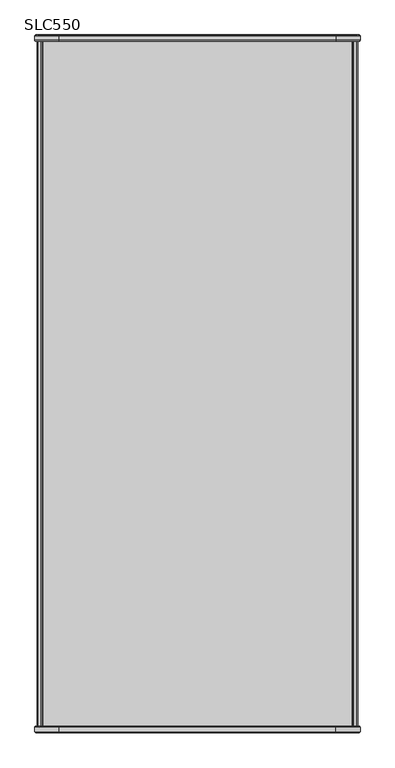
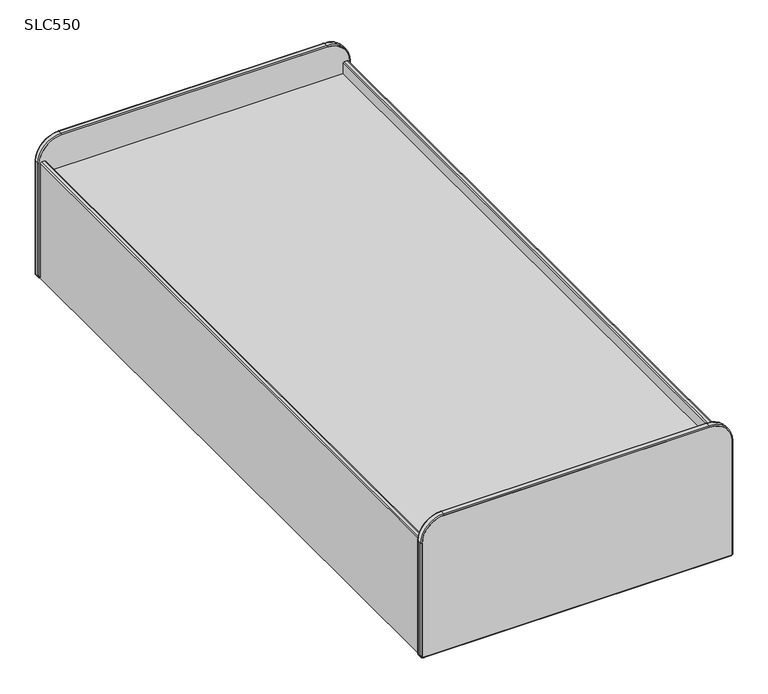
"""IFC4 building model written with IfcOpenShell, lengths in millimetres: furniture geometry, Stance_HC-Lotus-Platform_Bed-Rounded_Corners : SLC550."""

from ifc_helpers import new_model, si_unit, point, frame, frame_2d, origin, place, context, project, spatial, polyline, circle_curve, ellipse_curve, trimmed, segment, composite_curve, outline, extrude, source, transform, mapped, element, save
from ifc_brep_helpers import plane_surface, cylinder_surface, revolved_surface, advanced_brep


def slc550_b5a2f631(model_context):
    return source(origin(), model_context, "Body", "SolidModel", [
        extrude(outline(polyline([(946.9437258, -2063.75), (24.6062492, -2063.75), (24.6062492, -19.05), (946.9437258, -19.05), (946.9437258, -2063.75)])), frame((0.0, 0.0, 323.85), z_axis=(0.0, 0.0, 1.0), x_axis=(1.0, 0.0, 0.0)), (0.0, 0.0, 1.0), 19.05),
        extrude(outline(composite_curve([segment(polyline([(0.0, 22.2249992), (377.825, 22.2249992)]), True, "CONTINUOUS"), segment(trimmed(circle_curve(frame_2d((377.825, 19.0499992)), 3.175), [point((377.825, 22.2249992))], [point((381.0, 19.0499992))], False, "CARTESIAN"), True, "CONTINUOUS"), segment(polyline([(381.0, 19.0499992), (381.0, 9.5250002)]), True, "CONTINUOUS"), segment(trimmed(circle_curve(frame_2d((377.825, 9.5250002)), 3.175), [point((381.0, 9.5250002))], [point((377.825, 6.3500002))], False, "CARTESIAN"), True, "CONTINUOUS"), segment(polyline([(377.825, 6.3500002), (0.0, 6.3500002), (0.0, 22.2249992)]), True, "CONTINUOUS")], self_intersect=False)), frame((0.0, -2063.75, 0.0), z_axis=(0.0, 1.0, 0.0), x_axis=(0.0, 0.0, 1.0)), (0.0, 0.0, 1.0), 2044.7),
        extrude(outline(composite_curve([segment(polyline([(0.0, 949.3250008), (0.0, 965.1999998), (377.825, 965.1999998)]), True, "CONTINUOUS"), segment(trimmed(circle_curve(frame_2d((377.825, 962.0249998)), 3.175), [point((377.825, 965.1999998))], [point((381.0, 962.0249998))], False, "CARTESIAN"), True, "CONTINUOUS"), segment(polyline([(381.0, 962.0249998), (381.0, 952.5000008)]), True, "CONTINUOUS"), segment(trimmed(circle_curve(frame_2d((377.825, 952.5000008)), 3.175), [point((381.0, 952.5000008))], [point((377.825, 949.3250008))], False, "CARTESIAN"), True, "CONTINUOUS"), segment(polyline([(377.825, 949.3250008), (0.0, 949.3250008)]), True, "CONTINUOUS")], self_intersect=False)), frame((0.0, -2063.75, 0.0), z_axis=(0.0, 1.0, 0.0), x_axis=(0.0, 0.0, 1.0)), (0.0, 0.0, 1.0), 2044.7),
        extrude(outline(composite_curve([segment(trimmed(circle_curve(frame_2d((6.35, 965.2)), 3.1749999), [point((3.1750001, 965.2))], [point((6.35, 968.3749999))], False, "CARTESIAN"), True, "CONTINUOUS"), segment(polyline([(6.35, 968.3749999), (377.8249879, 968.3749999)]), True, "CONTINUOUS"), segment(trimmed(circle_curve(frame_2d((377.8249879, 898.525)), 69.8499999), [point((377.8249879, 968.3749999))], [point((447.6749878, 898.525))], False, "CARTESIAN"), True, "CONTINUOUS"), segment(polyline([(447.6749878, 898.525), (447.6749878, 73.0249985)]), True, "CONTINUOUS"), segment(trimmed(circle_curve(frame_2d((377.8249894, 73.0249985)), 69.8499984), [point((447.6749878, 73.0249985))], [point((377.8249894, 3.1750001))], False, "CARTESIAN"), True, "CONTINUOUS"), segment(polyline([(377.8249894, 3.1750001), (6.35, 3.1750001)]), True, "CONTINUOUS"), segment(trimmed(circle_curve(frame_2d((6.35, 6.35)), 3.1749999), [point((6.35, 3.1750001))], [point((3.1750001, 6.35))], False, "CARTESIAN"), True, "CONTINUOUS"), segment(polyline([(3.1750001, 6.35), (3.1750001, 965.2)]), True, "CONTINUOUS")], self_intersect=False)), frame((0.0, -2082.8, 0.0), z_axis=(0.0, 1.0, 0.0), x_axis=(0.0, 0.0, 1.0)), (0.0, 0.0, 1.0), 19.05),
        extrude(outline(composite_curve([segment(polyline([(3.1750001, 6.35), (3.1750001, 965.2)]), True, "CONTINUOUS"), segment(trimmed(circle_curve(frame_2d((6.35, 965.2)), 3.1749999), [point((3.1750001, 965.2))], [point((6.35, 968.3749999))], False, "CARTESIAN"), True, "CONTINUOUS"), segment(polyline([(6.35, 968.3749999), (377.8249879, 968.3749999)]), True, "CONTINUOUS"), segment(trimmed(circle_curve(frame_2d((377.8249879, 898.525)), 69.8499999), [point((377.8249879, 968.3749999))], [point((447.6749878, 898.525))], False, "CARTESIAN"), True, "CONTINUOUS"), segment(polyline([(447.6749878, 898.525), (447.6749878, 73.025)]), True, "CONTINUOUS"), segment(trimmed(circle_curve(frame_2d((377.8249879, 73.025)), 69.8499999), [point((447.6749878, 73.025))], [point((377.8249879, 3.1750001))], False, "CARTESIAN"), True, "CONTINUOUS"), segment(polyline([(377.8249879, 3.1750001), (6.35, 3.1750001)]), True, "CONTINUOUS"), segment(trimmed(circle_curve(frame_2d((6.35, 6.35)), 3.1749999), [point((6.35, 3.1750001))], [point((3.1750001, 6.35))], False, "CARTESIAN"), True, "CONTINUOUS")], self_intersect=False)), frame((0.0, -19.05, 0.0), z_axis=(0.0, 1.0, 0.0), x_axis=(0.0, 0.0, 1.0)), (0.0, 0.0, 1.0), 19.05),
        advanced_brep(
        [(971.55, -2066.9250001, 6.35), (965.2, -2066.9250001, 0.0), (965.2, -2063.75, 3.1750001), (968.3749999, -2063.75, 6.35), (965.2, -2082.8, 3.1750001), (968.3749999, -2082.8, 6.35), (965.2, -2079.6249999, 0.0), (971.55, -2079.6249999, 6.35), (968.3749999, -2063.75, 377.8249879), (971.55, -2066.9250001, 377.8249879), (968.3749999, -2082.8, 377.8249879), (971.55, -2079.6249999, 377.8249879), (0.0, -2066.9250001, 377.8249894), (3.1750001, -2063.75, 377.8249894), (3.1750001, -2063.75, 6.35), (0.0, -2066.9250001, 6.35), (3.1750001, -2082.8, 377.8249894), (3.1750001, -2082.8, 6.35), (0.0, -2079.6249999, 377.8249894), (0.0, -2079.6249999, 6.35), (6.35, -2066.9250001, 0.0), (6.35, -2063.75, 3.1750001), (6.35, -2082.8, 3.1750001), (6.35, -2079.6249999, 0.0), (898.525, -2079.6249999, 450.8499879), (898.525, -2066.9250001, 450.8499879), (898.525, -2082.8, 447.6749878), (898.525, -2063.75, 447.6749878), (73.0249985, -2066.9250001, 450.8499879), (73.0249985, -2079.6249999, 450.8499879), (73.0249985, -2082.8, 447.6749878), (73.0249985, -2063.75, 447.6749878)],
        [
            (0, 1, circle_curve(frame((965.2, -2066.9250001, 6.35), z_axis=(0.0, 1.0, 0.0), x_axis=(0.0, 0.0, -1.0)), 6.35)),
            (1, 2, circle_curve(frame((965.2, -2066.9250001, 3.1750001), z_axis=(1.0, 0.0, 0.0), x_axis=(0.0, 0.0, -1.0)), 3.1750001)),
            (2, 3, circle_curve(frame((965.2, -2063.75, 6.35), z_axis=(0.0, -1.0, 0.0), x_axis=(0.0, 0.0, -1.0)), 3.1749999)),
            (3, 0, circle_curve(frame((968.3749999, -2066.9250001, 6.35), z_axis=(0.0, 0.0, -1.0), x_axis=(1.0, 0.0, 0.0)), 3.1750001)),
            (2, 4),
            (4, 5, circle_curve(frame((965.2, -2082.8, 6.35), z_axis=(0.0, -1.0, 0.0), x_axis=(0.0, 0.0, -1.0)), 3.1749999)),
            (5, 3),
            (4, 6, circle_curve(frame((965.2, -2079.6249999, 3.1750001), z_axis=(1.0, 0.0, 0.0), x_axis=(0.0, 0.0, -1.0)), 3.1750001)),
            (6, 7, circle_curve(frame((965.2, -2079.6249999, 6.35), z_axis=(0.0, -1.0, 0.0), x_axis=(0.0, 0.0, -1.0)), 6.35)),
            (7, 5, circle_curve(frame((968.3749999, -2079.6249999, 6.35), z_axis=(0.0, 0.0, -1.0), x_axis=(1.0, 0.0, 0.0)), 3.1750001)),
            (6, 1),
            (0, 7),
            (3, 8),
            (8, 9, circle_curve(frame((968.3749999, -2066.9250001, 377.8249879), z_axis=(0.0, 0.0, -1.0), x_axis=(1.0, 0.0, 0.0)), 3.1750001)),
            (9, 0),
            (5, 10),
            (10, 8),
            (7, 11),
            (11, 10, circle_curve(frame((968.3749999, -2079.6249999, 377.8249879), z_axis=(0.0, 0.0, -1.0), x_axis=(1.0, 0.0, 0.0)), 3.1750001)),
            (9, 11),
            (12, 13, circle_curve(frame((3.1750001, -2066.9250001, 377.8249894), z_axis=(0.0, 0.0, -1.0), x_axis=(-1.0, 0.0, 0.0)), 3.1750001)),
            (13, 14),
            (14, 15, circle_curve(frame((3.1750001, -2066.9250001, 6.35), z_axis=(0.0, 0.0, 1.0), x_axis=(-1.0, 0.0, 0.0)), 3.1750001)),
            (15, 12),
            (13, 16),
            (16, 17),
            (17, 14),
            (16, 18, circle_curve(frame((3.1750001, -2079.6249999, 377.8249894), z_axis=(0.0, 0.0, -1.0), x_axis=(-1.0, 0.0, 0.0)), 3.1750001)),
            (18, 19),
            (19, 17, circle_curve(frame((3.1750001, -2079.6249999, 6.35), z_axis=(0.0, 0.0, 1.0), x_axis=(-1.0, 0.0, 0.0)), 3.1750001)),
            (18, 12),
            (15, 19),
            (20, 15, circle_curve(frame((6.35, -2066.9250001, 6.35), z_axis=(0.0, 1.0, 0.0), x_axis=(-1.0, 0.0, 0.0)), 6.35)),
            (14, 21, circle_curve(frame((6.35, -2063.75, 6.35), z_axis=(0.0, -1.0, 0.0), x_axis=(-1.0, 0.0, 0.0)), 3.1749999)),
            (21, 20, circle_curve(frame((6.35, -2066.9250001, 3.1750001), z_axis=(-1.0, 0.0, 0.0), x_axis=(0.0, 0.0, -1.0)), 3.1750001)),
            (17, 22, circle_curve(frame((6.35, -2082.8, 6.35), z_axis=(0.0, -1.0, 0.0), x_axis=(-1.0, 0.0, 0.0)), 3.1749999)),
            (22, 21),
            (19, 23, circle_curve(frame((6.35, -2079.6249999, 6.35), z_axis=(0.0, -1.0, 0.0), x_axis=(-1.0, 0.0, 0.0)), 6.35)),
            (23, 22, circle_curve(frame((6.35, -2079.6249999, 3.1750001), z_axis=(-1.0, 0.0, 0.0), x_axis=(0.0, 0.0, -1.0)), 3.1750001)),
            (20, 23),
            (21, 2),
            (1, 20),
            (22, 4),
            (23, 6),
            (24, 11, circle_curve(frame((898.525, -2079.6249999, 377.8249879), z_axis=(0.0, 1.0, 0.0), x_axis=(1.0, 0.0, 0.0)), 73.025)),
            (9, 25, circle_curve(frame((898.525, -2066.9250001, 377.8249879), z_axis=(0.0, -1.0, 0.0), x_axis=(1.0, 0.0, 0.0)), 73.025)),
            (25, 24),
            (26, 10, circle_curve(frame((898.525, -2082.8, 377.8249879), z_axis=(0.0, 1.0, 0.0), x_axis=(1.0, 0.0, 0.0)), 69.8499999)),
            (24, 26, circle_curve(frame((898.525, -2079.6249999, 447.6749878), z_axis=(1.0, 0.0, 0.0), x_axis=(0.0, 0.0, 1.0)), 3.1750001)),
            (27, 8, circle_curve(frame((898.525, -2063.75, 377.8249879), z_axis=(0.0, 1.0, 0.0), x_axis=(1.0, 0.0, 0.0)), 69.8499999)),
            (26, 27),
            (27, 25, circle_curve(frame((898.525, -2066.9250001, 447.6749878), z_axis=(1.0, 0.0, 0.0), x_axis=(0.0, 0.0, 1.0)), 3.1750001)),
            (25, 28),
            (28, 29),
            (29, 24),
            (29, 30, circle_curve(frame((73.0249985, -2079.6249999, 447.6749878), z_axis=(1.0, 0.0, 0.0), x_axis=(0.0, 0.0, 1.0)), 3.1750001)),
            (30, 26),
            (30, 31),
            (31, 27),
            (31, 28, circle_curve(frame((73.0249985, -2066.9250001, 447.6749878), z_axis=(1.0, 0.0, 0.0), x_axis=(0.0, 0.0, 1.0)), 3.1750001)),
            (18, 29, circle_curve(frame((73.0249985, -2079.6249999, 377.8249894), z_axis=(0.0, 1.0, 0.0), x_axis=(0.0, 0.0, 1.0)), 73.0249985)),
            (28, 12, circle_curve(frame((73.0249985, -2066.9250001, 377.8249894), z_axis=(0.0, -1.0, 0.0), x_axis=(0.0, 0.0, 1.0)), 73.0249985)),
            (16, 30, circle_curve(frame((73.0249985, -2082.8, 377.8249894), z_axis=(0.0, 1.0, 0.0), x_axis=(0.0, 0.0, 1.0)), 69.8499984)),
            (13, 31, circle_curve(frame((73.0249985, -2063.75, 377.8249894), z_axis=(0.0, 1.0, 0.0), x_axis=(0.0, 0.0, 1.0)), 69.8499984)),
        ],
        [
            revolved_surface(trimmed(ellipse_curve(frame((965.2, -2066.9250001, 3.1750001), z_axis=(-1.0, 0.0, 0.0), x_axis=(0.0, 0.0, -1.0)), 3.1750001, 3.1750001), [point((965.2, -2063.75, 3.1750001))], [point((965.2, -2066.9250001, 0.0))], True, "CARTESIAN"), (965.2, -2082.8, 6.35), (0.0, -1.0, 0.0)),
            revolved_surface(polyline([(965.2, -2082.8, 3.1750000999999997), (965.2, -2063.75, 3.1750000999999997)]), (965.2, -2082.8, 6.35), (0.0, -1.0, 0.0)),
            revolved_surface(trimmed(ellipse_curve(frame((965.2, -2079.6249999, 3.1750001), z_axis=(-1.0, 0.0, 0.0), x_axis=(0.0, 0.0, -1.0)), 3.1750001, 3.1750001), [point((965.2, -2079.6249999, 0.0))], [point((965.2, -2082.8, 3.1750001))], True, "CARTESIAN"), (965.2, -2082.8, 6.35), (0.0, -1.0, 0.0)),
            cylinder_surface(frame((965.2, -2082.8, 6.35), z_axis=(0.0, -1.0, 0.0), x_axis=(0.0, 0.0, -1.0)), 6.35),
            cylinder_surface(frame((968.3749999, -2066.9250001, 6.35), z_axis=(0.0, 0.0, -1.0), x_axis=(1.0, 0.0, 0.0)), 3.1750001),
            plane_surface(frame((968.3749999, -2082.8, 6.35), z_axis=(-1.0, 0.0, 0.0), x_axis=(0.0, 0.0, 1.0))),
            cylinder_surface(frame((968.3749999, -2079.6249999, 6.35), z_axis=(0.0, 0.0, -1.0), x_axis=(1.0, 0.0, 0.0)), 3.1750001),
            plane_surface(frame((971.55, -2066.9250001, 6.35), z_axis=(1.0, 0.0, 0.0), x_axis=(0.0, 0.0, 1.0))),
            cylinder_surface(frame((3.1750001, -2066.9250001, 377.8249894), z_axis=(0.0, 0.0, 1.0), x_axis=(-1.0, 0.0, 0.0)), 3.1750001),
            plane_surface(frame((3.1750001, -2082.8, 377.8249894), z_axis=(1.0, 0.0, 0.0), x_axis=(0.0, 0.0, -1.0))),
            cylinder_surface(frame((3.1750001, -2079.6249999, 377.8249894), z_axis=(0.0, 0.0, 1.0), x_axis=(-1.0, 0.0, 0.0)), 3.1750001),
            plane_surface(frame((0.0, -2066.9250001, 377.8249894), z_axis=(-1.0, 0.0, 0.0), x_axis=(0.0, 0.0, -1.0))),
            revolved_surface(trimmed(ellipse_curve(frame((3.1750001, -2066.9250001, 6.35), z_axis=(0.0, 0.0, 1.0), x_axis=(-1.0, 0.0, 0.0)), 3.1750001, 3.1750001), [point((3.1750001, -2063.75, 6.35))], [point((0.0, -2066.9250001, 6.35))], True, "CARTESIAN"), (6.35, -2082.8, 6.35), (0.0, -1.0, 0.0)),
            revolved_surface(polyline([(3.1750000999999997, -2082.8, 6.35), (3.1750000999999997, -2063.75, 6.35)]), (6.35, -2082.8, 6.35), (0.0, -1.0, 0.0)),
            revolved_surface(trimmed(ellipse_curve(frame((3.1750001, -2079.6249999, 6.35), z_axis=(0.0, 0.0, 1.0), x_axis=(-1.0, 0.0, 0.0)), 3.1750001, 3.1750001), [point((0.0, -2079.6249999, 6.35))], [point((3.1750001, -2082.8, 6.35))], True, "CARTESIAN"), (6.35, -2082.8, 6.35), (0.0, -1.0, 0.0)),
            cylinder_surface(frame((6.35, -2082.8, 6.35), z_axis=(0.0, -1.0, 0.0), x_axis=(-1.0, 0.0, 0.0)), 6.35),
            cylinder_surface(frame((6.35, -2066.9250001, 3.1750001), z_axis=(-1.0, 0.0, 0.0), x_axis=(0.0, 0.0, -1.0)), 3.1750001),
            plane_surface(frame((6.35, -2082.8, 3.1750001), z_axis=(0.0, 0.0, 1.0), x_axis=(1.0, 0.0, 0.0))),
            cylinder_surface(frame((6.35, -2079.6249999, 3.1750001), z_axis=(-1.0, 0.0, 0.0), x_axis=(0.0, 0.0, -1.0)), 3.1750001),
            plane_surface(frame((6.35, -2066.9250001, 0.0), z_axis=(0.0, 0.0, -1.0), x_axis=(1.0, 0.0, 0.0))),
            cylinder_surface(frame((898.525, -2082.8, 377.8249879), z_axis=(0.0, -1.0, 0.0), x_axis=(1.0, 0.0, 0.0)), 73.025),
            revolved_surface(trimmed(ellipse_curve(frame((968.3749999, -2079.6249999, 377.8249879), z_axis=(0.0, 0.0, -1.0), x_axis=(1.0, 0.0, 0.0)), 3.1750001, 3.1750001), [point((971.55, -2079.6249999, 377.8249879))], [point((968.3749999, -2082.8, 377.8249879))], True, "CARTESIAN"), (898.525, -2082.8, 377.8249879), (0.0, -1.0, 0.0)),
            revolved_surface(polyline([(968.3749998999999, -2082.8, 377.8249879), (968.3749998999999, -2063.75, 377.8249879)]), (898.525, -2082.8, 377.8249879), (0.0, -1.0, 0.0)),
            revolved_surface(trimmed(ellipse_curve(frame((968.3749999, -2066.9250001, 377.8249879), z_axis=(0.0, 0.0, -1.0), x_axis=(1.0, 0.0, 0.0)), 3.1750001, 3.1750001), [point((968.3749999, -2063.75, 377.8249879))], [point((971.55, -2066.9250001, 377.8249879))], True, "CARTESIAN"), (898.525, -2082.8, 377.8249879), (0.0, -1.0, 0.0)),
            plane_surface(frame((898.525, -2066.9250001, 450.8499879), z_axis=(0.0, 0.0, 1.0), x_axis=(-1.0, 0.0, 0.0))),
            cylinder_surface(frame((898.525, -2079.6249999, 447.6749878), z_axis=(1.0, 0.0, 0.0), x_axis=(0.0, 0.0, 1.0)), 3.1750001),
            plane_surface(frame((898.525, -2082.8, 447.6749878), z_axis=(0.0, 0.0, -1.0), x_axis=(-1.0, 0.0, 0.0))),
            cylinder_surface(frame((898.525, -2066.9250001, 447.6749878), z_axis=(1.0, 0.0, 0.0), x_axis=(0.0, 0.0, 1.0)), 3.1750001),
            cylinder_surface(frame((73.0249985, -2082.8, 377.8249894), z_axis=(0.0, -1.0, 0.0), x_axis=(0.0, 0.0, 1.0)), 73.0249985),
            revolved_surface(trimmed(ellipse_curve(frame((73.0249985, -2079.6249999, 447.6749878), z_axis=(1.0, 0.0, 0.0), x_axis=(0.0, 0.0, 1.0)), 3.1750001, 3.1750001), [point((73.0249985, -2079.6249999, 450.8499879))], [point((73.0249985, -2082.8, 447.6749878))], True, "CARTESIAN"), (73.0249985, -2082.8, 377.8249894), (0.0, -1.0, 0.0)),
            revolved_surface(polyline([(73.0249985, -2082.8, 447.6749878), (73.0249985, -2063.75, 447.6749878)]), (73.0249985, -2082.8, 377.8249894), (0.0, -1.0, 0.0)),
            revolved_surface(trimmed(ellipse_curve(frame((73.0249985, -2066.9250001, 447.6749878), z_axis=(1.0, 0.0, 0.0), x_axis=(0.0, 0.0, 1.0)), 3.1750001, 3.1750001), [point((73.0249985, -2063.75, 447.6749878))], [point((73.0249985, -2066.9250001, 450.8499879))], True, "CARTESIAN"), (73.0249985, -2082.8, 377.8249894), (0.0, -1.0, 0.0)),
        ],
        [
            (0, [[1, 2, 3, 4]]),
            (1, [[-3, 5, 6, 7]]),
            (2, [[-6, 8, 9, 10]]),
            (3, [[-9, 11, -1, 12]]),
            (4, [[-4, 13, 14, 15]]),
            (5, [[-7, 16, 17, -13]]),
            (6, [[-10, 18, 19, -16]]),
            (7, [[-12, -15, 20, -18]]),
            (8, [[21, 22, 23, 24]]),
            (9, [[25, 26, 27, -22]]),
            (10, [[28, 29, 30, -26]]),
            (11, [[31, -24, 32, -29]]),
            (12, [[33, -23, 34, 35]]),
            (13, [[-34, -27, 36, 37]]),
            (14, [[-36, -30, 38, 39]]),
            (15, [[-38, -32, -33, 40]]),
            (16, [[-35, 41, -2, 42]]),
            (17, [[-37, 43, -5, -41]]),
            (18, [[-39, 44, -8, -43]]),
            (19, [[-40, -42, -11, -44]]),
            (20, [[45, -20, 46, 47]]),
            (21, [[48, -19, -45, 49]]),
            (22, [[50, -17, -48, 51]]),
            (23, [[-46, -14, -50, 52]]),
            (24, [[-47, 53, 54, 55]]),
            (25, [[-49, -55, 56, 57]]),
            (26, [[-51, -57, 58, 59]]),
            (27, [[-52, -59, 60, -53]]),
            (28, [[61, -54, 62, -31]]),
            (29, [[63, -56, -61, -28]]),
            (30, [[64, -58, -63, -25]]),
            (31, [[-62, -60, -64, -21]]),
        ],
    ),
        advanced_brep(
        [(968.3749999, -19.05, 6.35), (965.2, -19.05, 3.1750001), (965.2, -15.8749999, 0.0), (971.55, -15.8749999, 6.35), (968.3749999, 0.0, 6.35), (965.2, 0.0, 3.1750001), (971.55, -3.1750001, 6.35), (965.2, -3.1750001, 0.0), (971.55, -15.8749999, 377.8249879), (968.3749999, -19.05, 377.8249879), (968.3749999, 0.0, 377.8249879), (971.55, -3.1750001, 377.8249879), (898.525, -19.05, 447.6749878), (898.525, -15.8749999, 450.8499879), (73.025, -15.8749999, 450.8499879), (73.025, -19.05, 447.6749878), (898.525, 0.0, 447.6749878), (73.025, 0.0, 447.6749878), (898.525, -3.1750001, 450.8499879), (73.025, -3.1750001, 450.8499879), (3.1750001, -19.05, 377.8249879), (0.0, -15.8749999, 377.8249879), (0.0, -15.8749999, 6.35), (3.1750001, -19.05, 6.35), (3.1750001, 0.0, 377.8249879), (3.1750001, 0.0, 6.35), (0.0, -3.1750001, 377.8249879), (0.0, -3.1750001, 6.35), (6.35, -19.05, 3.1750001), (6.35, -15.8749999, 0.0), (6.35, 0.0, 3.1750001), (6.35, -3.1750001, 0.0)],
        [
            (0, 1, circle_curve(frame((965.2, -19.05, 6.35), z_axis=(0.0, 1.0, 0.0), x_axis=(0.0, 0.0, -1.0)), 3.1749999)),
            (1, 2, circle_curve(frame((965.2, -15.8749999, 3.1750001), z_axis=(1.0, 0.0, 0.0), x_axis=(0.0, 0.0, 1.0)), 3.1750001)),
            (2, 3, circle_curve(frame((965.2, -15.8749999, 6.35), z_axis=(0.0, -1.0, 0.0), x_axis=(0.0, 0.0, -1.0)), 6.35)),
            (3, 0, circle_curve(frame((968.3749999, -15.8749999, 6.35), z_axis=(0.0, 0.0, -1.0), x_axis=(-1.0, 0.0, 0.0)), 3.1750001)),
            (4, 5, circle_curve(frame((965.2, 0.0, 6.35), z_axis=(0.0, 1.0, 0.0), x_axis=(0.0, 0.0, -1.0)), 3.1749999)),
            (5, 1),
            (0, 4),
            (6, 7, circle_curve(frame((965.2, -3.1750001, 6.35), z_axis=(0.0, 1.0, 0.0), x_axis=(0.0, 0.0, -1.0)), 6.35)),
            (7, 5, circle_curve(frame((965.2, -3.1750001, 3.1750001), z_axis=(1.0, 0.0, 0.0), x_axis=(0.0, 0.0, 1.0)), 3.1750001)),
            (4, 6, circle_curve(frame((968.3749999, -3.1750001, 6.35), z_axis=(0.0, 0.0, -1.0), x_axis=(-1.0, 0.0, 0.0)), 3.1750001)),
            (2, 7),
            (6, 3),
            (3, 8),
            (8, 9, circle_curve(frame((968.3749999, -15.8749999, 377.8249879), z_axis=(0.0, 0.0, -1.0), x_axis=(-1.0, 0.0, 0.0)), 3.1750001)),
            (9, 0),
            (9, 10),
            (10, 4),
            (10, 11, circle_curve(frame((968.3749999, -3.1750001, 377.8249879), z_axis=(0.0, 0.0, -1.0), x_axis=(-1.0, 0.0, 0.0)), 3.1750001)),
            (11, 6),
            (11, 8),
            (12, 13, circle_curve(frame((898.525, -15.8749999, 447.6749878), z_axis=(-1.0, 0.0, 0.0), x_axis=(0.0, 0.0, -1.0)), 3.1750001)),
            (13, 14),
            (14, 15, circle_curve(frame((73.025, -15.8749999, 447.6749878), z_axis=(1.0, 0.0, 0.0), x_axis=(0.0, 0.0, -1.0)), 3.1750001)),
            (15, 12),
            (16, 12),
            (15, 17),
            (17, 16),
            (18, 16, circle_curve(frame((898.525, -3.1750001, 447.6749878), z_axis=(-1.0, 0.0, 0.0), x_axis=(0.0, 0.0, -1.0)), 3.1750001)),
            (17, 19, circle_curve(frame((73.025, -3.1750001, 447.6749878), z_axis=(1.0, 0.0, 0.0), x_axis=(0.0, 0.0, -1.0)), 3.1750001)),
            (19, 18),
            (13, 18),
            (19, 14),
            (20, 21, circle_curve(frame((3.1750001, -15.8749999, 377.8249879), z_axis=(0.0, 0.0, -1.0), x_axis=(1.0, 0.0, 0.0)), 3.1750001)),
            (21, 22),
            (22, 23, circle_curve(frame((3.1750001, -15.8749999, 6.35), z_axis=(0.0, 0.0, 1.0), x_axis=(1.0, 0.0, 0.0)), 3.1750001)),
            (23, 20),
            (24, 20),
            (23, 25),
            (25, 24),
            (26, 24, circle_curve(frame((3.1750001, -3.1750001, 377.8249879), z_axis=(0.0, 0.0, -1.0), x_axis=(1.0, 0.0, 0.0)), 3.1750001)),
            (25, 27, circle_curve(frame((3.1750001, -3.1750001, 6.35), z_axis=(0.0, 0.0, 1.0), x_axis=(1.0, 0.0, 0.0)), 3.1750001)),
            (27, 26),
            (21, 26),
            (27, 22),
            (28, 23, circle_curve(frame((6.35, -19.05, 6.35), z_axis=(0.0, 1.0, 0.0), x_axis=(-1.0, 0.0, 0.0)), 3.1749999)),
            (22, 29, circle_curve(frame((6.35, -15.8749999, 6.35), z_axis=(0.0, -1.0, 0.0), x_axis=(-1.0, 0.0, 0.0)), 6.35)),
            (29, 28, circle_curve(frame((6.35, -15.8749999, 3.1750001), z_axis=(-1.0, 0.0, 0.0), x_axis=(0.0, 0.0, 1.0)), 3.1750001)),
            (30, 25, circle_curve(frame((6.35, 0.0, 6.35), z_axis=(0.0, 1.0, 0.0), x_axis=(-1.0, 0.0, 0.0)), 3.1749999)),
            (28, 30),
            (31, 27, circle_curve(frame((6.35, -3.1750001, 6.35), z_axis=(0.0, 1.0, 0.0), x_axis=(-1.0, 0.0, 0.0)), 6.35)),
            (30, 31, circle_curve(frame((6.35, -3.1750001, 3.1750001), z_axis=(-1.0, 0.0, 0.0), x_axis=(0.0, 0.0, 1.0)), 3.1750001)),
            (31, 29),
            (29, 2),
            (1, 28),
            (5, 30),
            (7, 31),
            (12, 9, circle_curve(frame((898.525, -19.05, 377.8249879), z_axis=(0.0, 1.0, 0.0), x_axis=(1.0, 0.0, 0.0)), 69.8499999)),
            (8, 13, circle_curve(frame((898.525, -15.8749999, 377.8249879), z_axis=(0.0, -1.0, 0.0), x_axis=(1.0, 0.0, 0.0)), 73.025)),
            (16, 10, circle_curve(frame((898.525, 0.0, 377.8249879), z_axis=(0.0, 1.0, 0.0), x_axis=(1.0, 0.0, 0.0)), 69.8499999)),
            (18, 11, circle_curve(frame((898.525, -3.1750001, 377.8249879), z_axis=(0.0, 1.0, 0.0), x_axis=(1.0, 0.0, 0.0)), 73.025)),
            (20, 15, circle_curve(frame((73.025, -19.05, 377.8249879), z_axis=(0.0, 1.0, 0.0), x_axis=(0.0, 0.0, 1.0)), 69.8499999)),
            (14, 21, circle_curve(frame((73.025, -15.8749999, 377.8249879), z_axis=(0.0, -1.0, 0.0), x_axis=(0.0, 0.0, 1.0)), 73.025)),
            (24, 17, circle_curve(frame((73.025, 0.0, 377.8249879), z_axis=(0.0, 1.0, 0.0), x_axis=(0.0, 0.0, 1.0)), 69.8499999)),
            (26, 19, circle_curve(frame((73.025, -3.1750001, 377.8249879), z_axis=(0.0, 1.0, 0.0), x_axis=(0.0, 0.0, 1.0)), 73.025)),
        ],
        [
            revolved_surface(trimmed(ellipse_curve(frame((965.2, -15.8749999, 3.1750001), z_axis=(-1.0, 0.0, 0.0), x_axis=(0.0, 0.0, 1.0)), 3.1750001, 3.1750001), [point((965.2, -15.8749999, 0.0))], [point((965.2, -19.05, 3.1750001))], True, "CARTESIAN"), (965.2, 0.0, 6.35), (0.0, -1.0, 0.0)),
            revolved_surface(polyline([(965.2, -19.05, 3.1750000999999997), (965.2, 0.0, 3.1750000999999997)]), (965.2, 0.0, 6.35), (0.0, -1.0, 0.0)),
            revolved_surface(trimmed(ellipse_curve(frame((965.2, -3.1750001, 3.1750001), z_axis=(-1.0, 0.0, 0.0), x_axis=(0.0, 0.0, 1.0)), 3.1750001, 3.1750001), [point((965.2, 0.0, 3.1750001))], [point((965.2, -3.1750001, 0.0))], True, "CARTESIAN"), (965.2, 0.0, 6.35), (0.0, -1.0, 0.0)),
            cylinder_surface(frame((965.2, 0.0, 6.35), z_axis=(0.0, -1.0, 0.0), x_axis=(0.0, 0.0, -1.0)), 6.35),
            cylinder_surface(frame((968.3749999, -15.8749999, 6.35), z_axis=(0.0, 0.0, -1.0), x_axis=(-1.0, 0.0, 0.0)), 3.1750001),
            plane_surface(frame((968.3749999, -19.05, 6.35), z_axis=(-1.0, 0.0, 0.0), x_axis=(0.0, 0.0, 1.0))),
            cylinder_surface(frame((968.3749999, -3.1750001, 6.35), z_axis=(0.0, 0.0, -1.0), x_axis=(-1.0, 0.0, 0.0)), 3.1750001),
            plane_surface(frame((971.55, -3.1750001, 6.35), z_axis=(1.0, 0.0, 0.0), x_axis=(0.0, 0.0, 1.0))),
            cylinder_surface(frame((898.525, -15.8749999, 447.6749878), z_axis=(1.0, 0.0, 0.0), x_axis=(0.0, 0.0, -1.0)), 3.1750001),
            plane_surface(frame((898.525, -19.05, 447.6749878), z_axis=(0.0, 0.0, -1.0), x_axis=(-1.0, 0.0, 0.0))),
            cylinder_surface(frame((898.525, -3.1750001, 447.6749878), z_axis=(1.0, 0.0, 0.0), x_axis=(0.0, 0.0, -1.0)), 3.1750001),
            plane_surface(frame((898.525, -3.1750001, 450.8499879), z_axis=(0.0, 0.0, 1.0), x_axis=(-1.0, 0.0, 0.0))),
            cylinder_surface(frame((3.1750001, -15.8749999, 377.8249879), z_axis=(0.0, 0.0, 1.0), x_axis=(1.0, 0.0, 0.0)), 3.1750001),
            plane_surface(frame((3.1750001, -19.05, 377.8249879), z_axis=(1.0, 0.0, 0.0), x_axis=(0.0, 0.0, -1.0))),
            cylinder_surface(frame((3.1750001, -3.1750001, 377.8249879), z_axis=(0.0, 0.0, 1.0), x_axis=(1.0, 0.0, 0.0)), 3.1750001),
            plane_surface(frame((0.0, -3.1750001, 377.8249879), z_axis=(-1.0, 0.0, 0.0), x_axis=(0.0, 0.0, -1.0))),
            revolved_surface(trimmed(ellipse_curve(frame((3.1750001, -15.8749999, 6.35), z_axis=(0.0, 0.0, 1.0), x_axis=(1.0, 0.0, 0.0)), 3.1750001, 3.1750001), [point((0.0, -15.8749999, 6.35))], [point((3.1750001, -19.05, 6.35))], True, "CARTESIAN"), (6.35, 0.0, 6.35), (0.0, -1.0, 0.0)),
            revolved_surface(polyline([(3.1750000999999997, -19.05, 6.35), (3.1750000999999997, 0.0, 6.35)]), (6.35, 0.0, 6.35), (0.0, -1.0, 0.0)),
            revolved_surface(trimmed(ellipse_curve(frame((3.1750001, -3.1750001, 6.35), z_axis=(0.0, 0.0, 1.0), x_axis=(1.0, 0.0, 0.0)), 3.1750001, 3.1750001), [point((3.1750001, 0.0, 6.35))], [point((0.0, -3.1750001, 6.35))], True, "CARTESIAN"), (6.35, 0.0, 6.35), (0.0, -1.0, 0.0)),
            cylinder_surface(frame((6.35, 0.0, 6.35), z_axis=(0.0, -1.0, 0.0), x_axis=(-1.0, 0.0, 0.0)), 6.35),
            cylinder_surface(frame((6.35, -15.8749999, 3.1750001), z_axis=(-1.0, 0.0, 0.0), x_axis=(0.0, 0.0, 1.0)), 3.1750001),
            plane_surface(frame((6.35, -19.05, 3.1750001), z_axis=(0.0, 0.0, 1.0), x_axis=(1.0, 0.0, 0.0))),
            cylinder_surface(frame((6.35, -3.1750001, 3.1750001), z_axis=(-1.0, 0.0, 0.0), x_axis=(0.0, 0.0, 1.0)), 3.1750001),
            plane_surface(frame((6.35, -3.1750001, 0.0), z_axis=(0.0, 0.0, -1.0), x_axis=(1.0, 0.0, 0.0))),
            revolved_surface(trimmed(ellipse_curve(frame((968.3749999, -15.8749999, 377.8249879), z_axis=(0.0, 0.0, -1.0), x_axis=(-1.0, 0.0, 0.0)), 3.1750001, 3.1750001), [point((971.55, -15.8749999, 377.8249879))], [point((968.3749999, -19.05, 377.8249879))], True, "CARTESIAN"), (898.525, 0.0, 377.8249879), (0.0, -1.0, 0.0)),
            revolved_surface(polyline([(968.3749998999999, -19.05, 377.8249879), (968.3749998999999, 0.0, 377.8249879)]), (898.525, 0.0, 377.8249879), (0.0, -1.0, 0.0)),
            revolved_surface(trimmed(ellipse_curve(frame((968.3749999, -3.1750001, 377.8249879), z_axis=(0.0, 0.0, -1.0), x_axis=(-1.0, 0.0, 0.0)), 3.1750001, 3.1750001), [point((968.3749999, 0.0, 377.8249879))], [point((971.55, -3.1750001, 377.8249879))], True, "CARTESIAN"), (898.525, 0.0, 377.8249879), (0.0, -1.0, 0.0)),
            cylinder_surface(frame((898.525, 0.0, 377.8249879), z_axis=(0.0, -1.0, 0.0), x_axis=(1.0, 0.0, 0.0)), 73.025),
            revolved_surface(trimmed(ellipse_curve(frame((73.025, -15.8749999, 447.6749878), z_axis=(1.0, 0.0, 0.0), x_axis=(0.0, 0.0, -1.0)), 3.1750001, 3.1750001), [point((73.025, -15.8749999, 450.8499879))], [point((73.025, -19.05, 447.6749878))], True, "CARTESIAN"), (73.025, 0.0, 377.8249879), (0.0, -1.0, 0.0)),
            revolved_surface(polyline([(73.025, -19.05, 447.6749878), (73.025, 0.0, 447.6749878)]), (73.025, 0.0, 377.8249879), (0.0, -1.0, 0.0)),
            revolved_surface(trimmed(ellipse_curve(frame((73.025, -3.1750001, 447.6749878), z_axis=(1.0, 0.0, 0.0), x_axis=(0.0, 0.0, -1.0)), 3.1750001, 3.1750001), [point((73.025, 0.0, 447.6749878))], [point((73.025, -3.1750001, 450.8499879))], True, "CARTESIAN"), (73.025, 0.0, 377.8249879), (0.0, -1.0, 0.0)),
            cylinder_surface(frame((73.025, 0.0, 377.8249879), z_axis=(0.0, -1.0, 0.0), x_axis=(0.0, 0.0, 1.0)), 73.025),
        ],
        [
            (0, [[1, 2, 3, 4]]),
            (1, [[5, 6, -1, 7]]),
            (2, [[8, 9, -5, 10]]),
            (3, [[-3, 11, -8, 12]]),
            (4, [[-4, 13, 14, 15]]),
            (5, [[-7, -15, 16, 17]]),
            (6, [[-10, -17, 18, 19]]),
            (7, [[-12, -19, 20, -13]]),
            (8, [[21, 22, 23, 24]]),
            (9, [[25, -24, 26, 27]]),
            (10, [[28, -27, 29, 30]]),
            (11, [[31, -30, 32, -22]]),
            (12, [[33, 34, 35, 36]]),
            (13, [[37, -36, 38, 39]]),
            (14, [[40, -39, 41, 42]]),
            (15, [[43, -42, 44, -34]]),
            (16, [[45, -35, 46, 47]]),
            (17, [[48, -38, -45, 49]]),
            (18, [[50, -41, -48, 51]]),
            (19, [[-46, -44, -50, 52]]),
            (20, [[-47, 53, -2, 54]]),
            (21, [[-49, -54, -6, 55]]),
            (22, [[-51, -55, -9, 56]]),
            (23, [[-52, -56, -11, -53]]),
            (24, [[57, -14, 58, -21]]),
            (25, [[59, -16, -57, -25]]),
            (26, [[60, -18, -59, -28]]),
            (27, [[-58, -20, -60, -31]]),
            (28, [[61, -23, 62, -33]]),
            (29, [[63, -26, -61, -37]]),
            (30, [[64, -29, -63, -40]]),
            (31, [[-62, -32, -64, -43]]),
        ],
    ),
    ])


if __name__ == "__main__":
    model = new_model("IFC4")
    model_context = context("Model", 3, world=origin())
    ifc_project = project(units=[si_unit("LENGTHUNIT", "METRE", prefix="MILLI")], contexts=[model_context])
    site = spatial("IfcSite", under=ifc_project)
    building = spatial("IfcBuilding", under=site)
    placement = place(None, origin())
    slc550_shape = slc550_b5a2f631(model_context)
    element("IfcFurniture", 1, ObjectType="Stance_HC-Lotus-Platform_Bed-Rounded_Corners : SLC550", at=placement, inside=building, context=model_context, shape_type="MappedRepresentation", body=[
        mapped(slc550_shape, transform((0.0, 0.0, 0.0), x_axis=(1.0, 0.0, 0.0), y_axis=(0.0, 1.0, 0.0), z_axis=(0.0, 0.0, 1.0))),
    ])
    save(model, "model.ifc")
